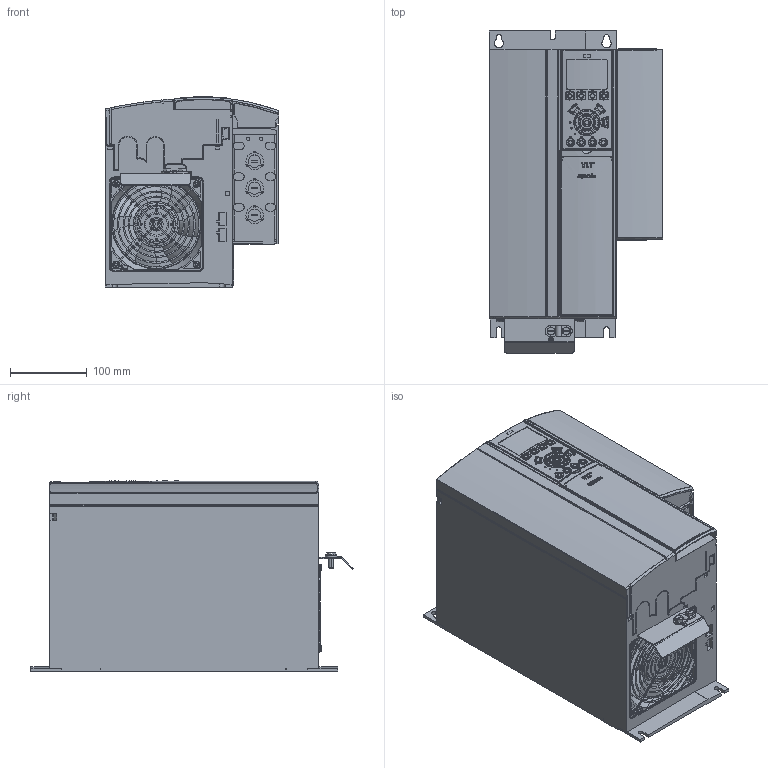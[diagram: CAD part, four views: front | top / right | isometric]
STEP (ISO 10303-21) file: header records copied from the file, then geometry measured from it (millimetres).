
FILE_DESCRIPTION((''),'2;1');
FILE_NAME('DANFOSS-FC200-B3-IP20-C-107','2007-06-13T',('Naushad.pm'),('dan Drives A/S'),'PRO/ENGINEER BY PARAMETRIC TECHNOLOGY CORPORATION, 2006200','PRO/ENGINEER BY PARAMETRIC TECHNOLOGY CORPORATION, 2006200','');
FILE_SCHEMA(('CONFIG_CONTROL_DESIGN', 'GEOMETRIC_VALIDATION_PROPERTIES_MIM'));
Length unit declared in the file: millimetre
Products named in the file (1): DANFOSS-FC200-B3-IP20-C-107
Bounding box: 225.68 x 419 x 248.01 mm (x, y, z)
Volume: 16274212.3 mm3; surface area: 633365.2 mm2
Topology: 2 solids, 19 shells, 4267 faces, 10568 edges, 6412 vertices
Faces by surface type: cylinder 1558, plane 1312, bspline 568, torus 508, sphere 171, extrusion 82, cone 68
Entity records: 205869 total; most frequent: CARTESIAN_POINT 64682, ORIENTED_EDGE 21126, DIRECTION 18953, PRESENTATION_STYLE_ASSIGNMENT 12145, STYLED_ITEM 10798, CURVE_STYLE 10563, EDGE_CURVE 10563, AXIS2_PLACEMENT_3D 7003
